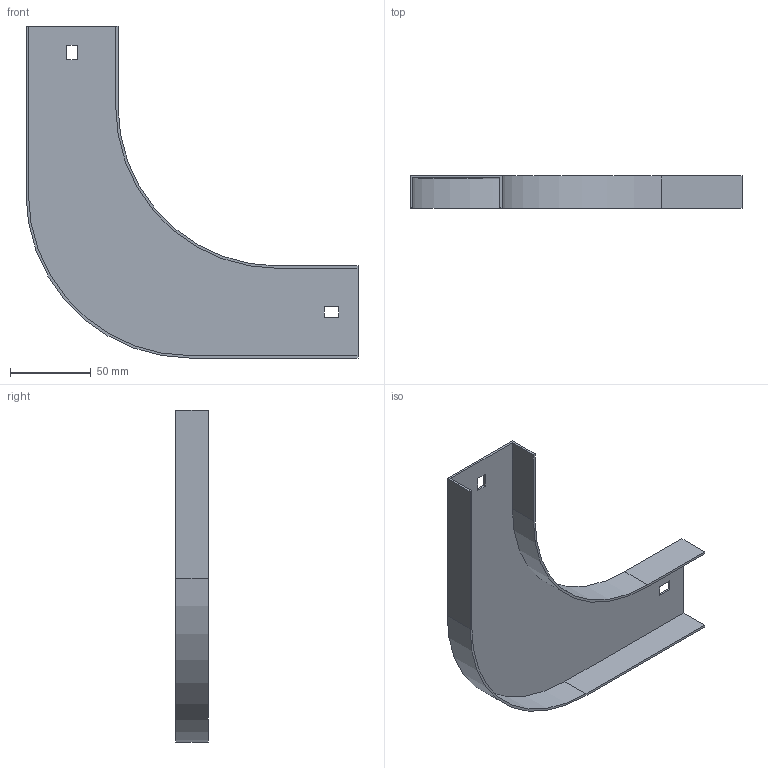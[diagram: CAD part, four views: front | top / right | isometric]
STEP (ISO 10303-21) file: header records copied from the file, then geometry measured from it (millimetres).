
FILE_DESCRIPTION (( 'STEP AP214' ), '1' );
FILE_NAME ('10N1R050.step', '2025-02-21T09:21:20', ( '' ), ( '' ), 'SwSTEP 2.0', 'SolidWorks 2023', '' );
FILE_SCHEMA (( 'AUTOMOTIVE_DESIGN' ));
Length unit declared in the file: millimetre
Products named in the file (1): 10N1R050
Bounding box: 205.5 x 20 x 205.5 mm (x, y, z)
Volume: 47163.3 mm3; surface area: 64192.6 mm2
Topology: 1 solids, 1 shells, 26 faces, 72 edges, 48 vertices
Faces by surface type: plane 22, cylinder 4
Entity records: 855 total; most frequent: CARTESIAN_POINT 147, ORIENTED_EDGE 144, DIRECTION 134, EDGE_CURVE 72, VECTOR 64, LINE 64, VERTEX_POINT 48, AXIS2_PLACEMENT_3D 35
